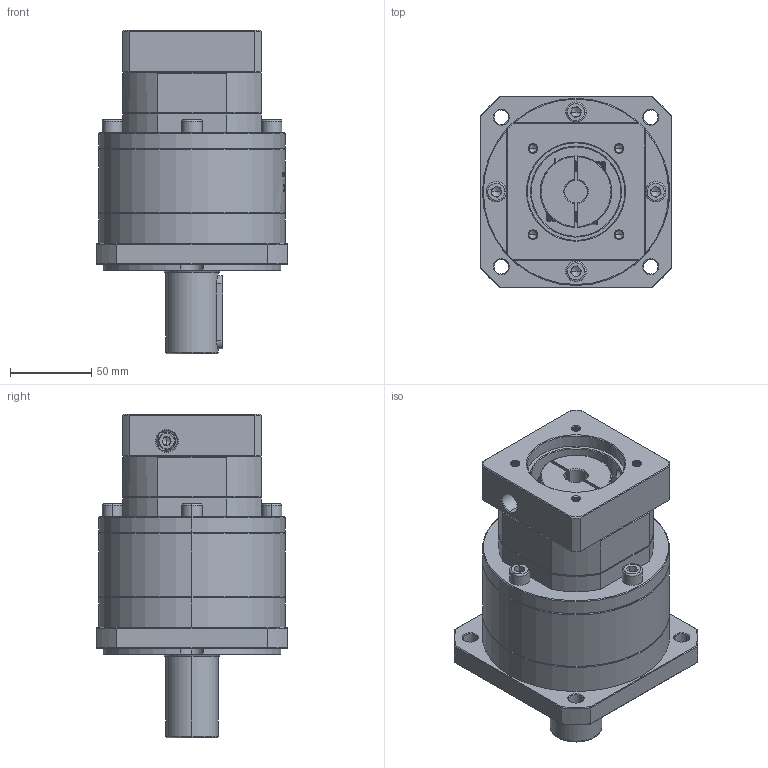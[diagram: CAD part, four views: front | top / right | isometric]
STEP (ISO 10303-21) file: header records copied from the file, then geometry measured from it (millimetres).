
FILE_DESCRIPTION (( 'STEP AP214' ), '1' );
FILE_NAME ('ZF120A-D32-L2-14-60-75-M6.step', '2023-03-07T15:01:51', ( '' ), ( 'Microsoft' ), 'SwSTEP 2.0', 'SolidWorks 2016', '' );
FILE_SCHEMA (( 'AUTOMOTIVE_DESIGN' ));
Length unit declared in the file: millimetre
Products named in the file (1): ZF120A-D32-L2-14-60-75-M6
Bounding box: 118 x 118 x 199 mm (x, y, z)
Volume: 1302880.5 mm3; surface area: 127741.5 mm2
Topology: 5 solids, 6 shells, 1945 faces, 5081 edges, 3228 vertices
Faces by surface type: plane 883, cylinder 406, bspline 321, cone 320, torus 15
Entity records: 105571 total; most frequent: CARTESIAN_POINT 40243, ORIENTED_EDGE 10102, DIRECTION 7801, EDGE_CURVE 5051, VERTEX_POINT 3228, LINE 2749, VECTOR 2749, AXIS2_PLACEMENT_3D 2526
